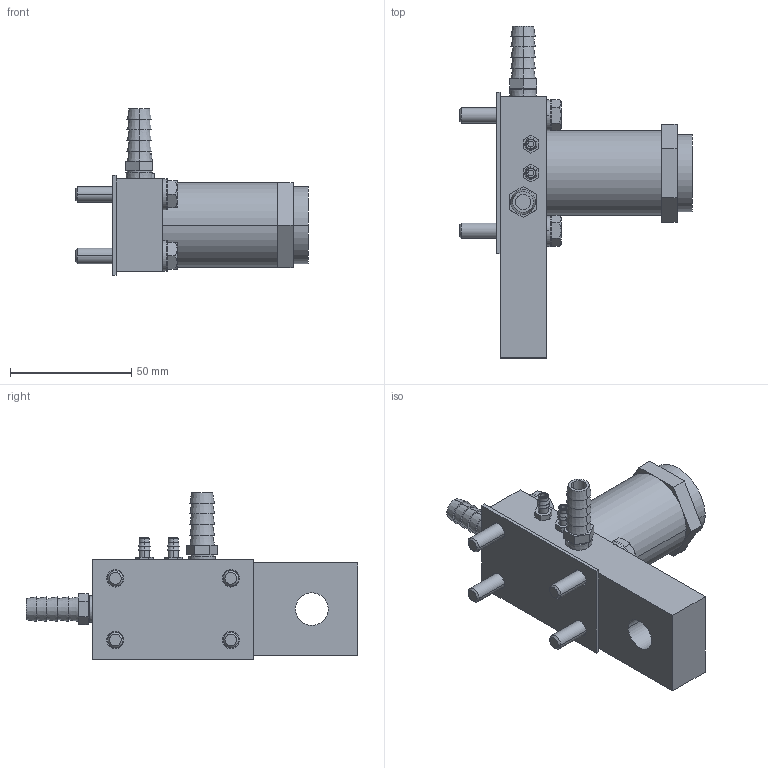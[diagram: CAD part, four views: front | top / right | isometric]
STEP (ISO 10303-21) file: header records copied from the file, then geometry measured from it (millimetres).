
FILE_DESCRIPTION((''),'2;1');
FILE_NAME('UHR3_ASM','2017-08-24T',('jennifer.elliott'),('CenterLine (Windsor) Ltd - Automation Components Division'),'PRO/ENGINEER BY PARAMETRIC TECHNOLOGY CORPORATION, 2015030','PRO/ENGINEER BY PARAMETRIC TECHNOLOGY CORPORATION, 2015030','');
FILE_SCHEMA(('AUTOMOTIVE_DESIGN { 1 0 10303 214 1 1 1 1 }'));
Length unit declared in the file: inch
Products named in the file (22): PRT0275; PRT0276; PRT0277; PRT0278; PRT0279; PRT0280; PRT0281; PRT0282; PRT0283; PRT0284; PRT0285; PRT0286; PRT0287; PRT0288; PRT0289; PRT0290; PRT0291; PRT0292; PRT0293; PRT0294; PRT0295; UHR3_ASM
Assembly tree (21 placements, depth 2):
  UHR3_ASM
    PRT0275
    PRT0276
    PRT0277
    PRT0278
    PRT0279
    PRT0280
    PRT0281
    PRT0282
    PRT0283
    PRT0284
    PRT0285
    PRT0286
    PRT0287
    PRT0288
    PRT0289
    PRT0290
    PRT0291
    PRT0292
    PRT0293
    PRT0294
    PRT0295
Bounding box: 96.08 x 136.91 x 68.64 mm (x, y, z)
Volume: 143504.2 mm3; surface area: 46703.7 mm2
Topology: 21 solids, 21 shells, 294 faces, 632 edges, 408 vertices
Faces by surface type: plane 132, cylinder 90, cone 64, torus 8
Entity records: 9680 total; most frequent: CARTESIAN_POINT 1693, DIRECTION 1550, ORIENTED_EDGE 1264, EDGE_CURVE 632, AXIS2_PLACEMENT_3D 629, VERTEX_POINT 408, EDGE_LOOP 364, FACE_OUTER_BOUND 294
